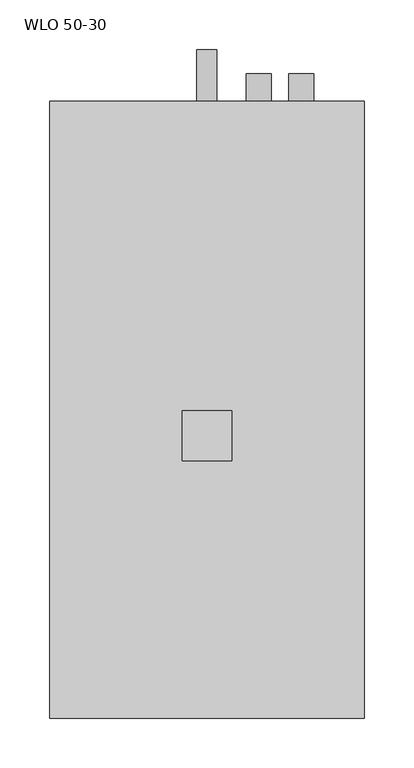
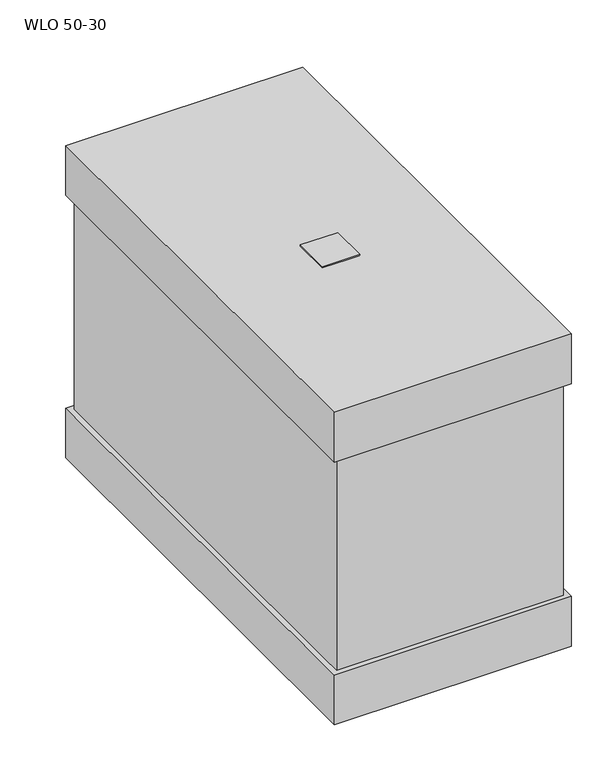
"""IFC4 building model written with IfcOpenShell, lengths in millimetres: proxy geometry, KORF_Воздухоохладитель_Водяной_WLO_Правый : WLO 50-30."""

from ifc_helpers import new_model, si_unit, point, frame, frame_2d, origin, place, context, project, spatial, polyline, circle_curve, trimmed, segment, composite_curve, outline, extrude, faceted_brep, source, transform, mapped, element, save


def wlo_50_30_83ce51d4(model_context):
    return source(origin(), model_context, "Body", "SolidModel", [
        extrude(outline(polyline([(133.0, -25.0), (133.0, 25.0), (183.0, 25.0), (183.0, -25.0), (133.0, -25.0)])), frame((0.0, 0.0, 220.0), z_axis=(0.0, 0.0, 1.0), x_axis=(1.0, 0.0, 0.0)), (0.0, 0.0, 1.0), 2.0),
        faceted_brep([(316.0, -284.0, 220.0), (316.0, -284.0, 150.0), (316.0, 336.0, 150.0), (316.0, 336.0, 220.0), (316.0, -284.0, -150.0), (316.0, -284.0, -220.0), (316.0, 336.0, -220.0), (316.0, 336.0, -150.0), (0.0, -284.0, 220.0), (0.0, 336.0, 220.0), (0.0, 336.0, 150.0), (0.0, -284.0, 150.0), (0.0, -284.0, -150.0), (0.0, 336.0, -150.0), (0.0, 336.0, -220.0), (0.0, -284.0, -220.0), (7.0, -277.0, 150.0), (309.0, -277.0, 150.0), (309.0, -250.0, 150.0), (309.0, 250.0, 150.0), (309.0, 329.0, 150.0), (7.0, 329.0, 150.0), (7.0, 250.0, 150.0), (7.0, -250.0, 150.0), (309.0, -277.0, -150.0), (7.0, -277.0, -150.0), (7.0, -250.0, -150.0), (7.0, 250.0, -150.0), (7.0, 329.0, -150.0), (309.0, 329.0, -150.0), (309.0, 250.0, -150.0), (309.0, -250.0, -150.0)], [[[0, 1, 2, 3]], [[4, 5, 6, 7]], [[8, 9, 10, 11]], [[12, 13, 14, 15]], [[1, 0, 8, 11]], [[2, 1, 11, 10], [16, 17, 18, 19, 20, 21, 22, 23]], [[3, 2, 10, 9]], [[0, 3, 9, 8]], [[5, 4, 12, 15]], [[6, 5, 15, 14]], [[7, 6, 14, 13]], [[4, 7, 13, 12], [24, 25, 26, 27, 28, 29, 30, 31]], [[17, 24, 31, 30, 29, 20, 19, 18]], [[21, 28, 27, 26, 25, 16, 23, 22]], [[24, 17, 16, 25]], [[20, 29, 28, 21]]]),
        extrude(outline(composite_curve([segment(trimmed(circle_curve(frame_2d((50.0, 253.0)), 12.5), [point((50.0, 240.5))], [point((50.0, 265.5))], False, "CARTESIAN"), True, "CONTINUOUS"), segment(trimmed(circle_curve(frame_2d((50.0, 253.0)), 12.5), [point((50.0, 265.5))], [point((50.0, 240.5))], False, "CARTESIAN"), True, "CONTINUOUS")], self_intersect=False)), frame((0.0, 329.0, 0.0), z_axis=(0.0, 1.0, 0.0), x_axis=(0.0, 0.0, 1.0)), (0.0, 0.0, 1.0), 35.0),
        extrude(outline(composite_curve([segment(trimmed(circle_curve(frame_2d((-50.0, 210.0)), 12.5), [point((-50.0, 197.5))], [point((-50.0, 222.5))], False, "CARTESIAN"), True, "CONTINUOUS"), segment(trimmed(circle_curve(frame_2d((-50.0, 210.0)), 12.5), [point((-50.0, 222.5))], [point((-50.0, 197.5))], False, "CARTESIAN"), True, "CONTINUOUS")], self_intersect=False)), frame((0.0, 329.0, 0.0), z_axis=(0.0, 1.0, 0.0), x_axis=(0.0, 0.0, 1.0)), (0.0, 0.0, 1.0), 35.0),
        extrude(outline(composite_curve([segment(trimmed(circle_curve(frame_2d((-202.0, 158.0)), 10.0), [point((-202.0, 148.0))], [point((-202.0, 168.0))], False, "CARTESIAN"), True, "CONTINUOUS"), segment(trimmed(circle_curve(frame_2d((-202.0, 158.0)), 10.0), [point((-202.0, 168.0))], [point((-202.0, 148.0))], False, "CARTESIAN"), True, "CONTINUOUS")], self_intersect=False)), frame((0.0, 336.0, 0.0), z_axis=(0.0, 1.0, 0.0), x_axis=(0.0, 0.0, 1.0)), (0.0, 0.0, 1.0), 52.0),
    ])


if __name__ == "__main__":
    model = new_model("IFC4")
    model_context = context("Model", 3, world=origin())
    ifc_project = project(units=[si_unit("LENGTHUNIT", "METRE", prefix="MILLI")], contexts=[model_context])
    site = spatial("IfcSite", under=ifc_project)
    building = spatial("IfcBuilding", under=site)
    placement = place(None, origin())
    wlo_50_30_shape = wlo_50_30_83ce51d4(model_context)
    element("IfcBuildingElementProxy", 1, Name="KORF_Воздухоохладитель_Водяной_WLO_Правый : WLO 50-30", ObjectType="KORF_Воздухоохладитель_Водяной_WLO_Правый : WLO 50-30", at=placement, inside=building, context=model_context, shape_type="MappedRepresentation", body=[
        mapped(wlo_50_30_shape, transform((0.0, 0.0, 0.0), x_axis=(1.0, 0.0, 0.0), y_axis=(0.0, 1.0, 0.0), z_axis=(0.0, 0.0, 1.0))),
    ])
    save(model, "model.ifc")
